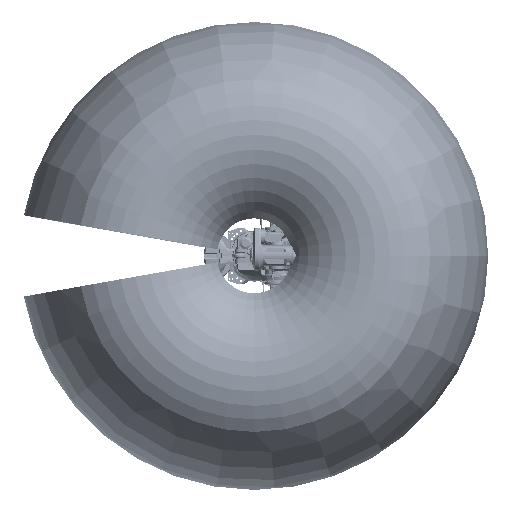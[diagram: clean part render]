
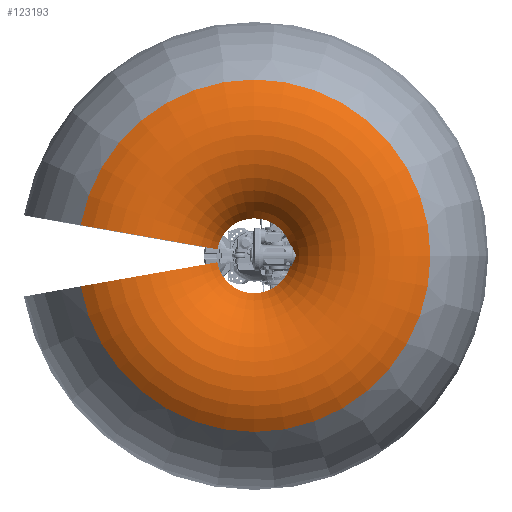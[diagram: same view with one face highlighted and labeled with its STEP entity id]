
A CAD part, top view. The second image highlights one B-rep face of the part: STEP entity #123193.
In plain terms, the highlighted toroidal (fillet/blend) face has major radius 1705.64 mm and minor radius 1295 mm.
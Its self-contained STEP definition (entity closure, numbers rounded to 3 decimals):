
#717 = VERTEX_POINT ( 'NONE', #183100 ) ;
#1055 = VERTEX_POINT ( 'NONE', #414908 ) ;
#4523 = CIRCLE ( 'NONE', #247422, 531.973 ) ;
#31187 = DIRECTION ( 'NONE',  ( -0.174, 0.985, 0. ) ) ;
#45859 = CARTESIAN_POINT ( 'NONE',  ( 0., 0., 2520.008 ) ) ;
#51327 = ORIENTED_EDGE ( 'NONE', *, *, #254730, .F. ) ;
#79674 = AXIS2_PLACEMENT_3D ( 'NONE', #117798, #215543, #148239 ) ;
#81705 = ORIENTED_EDGE ( 'NONE', *, *, #278812, .F. ) ;
#86138 = FACE_OUTER_BOUND ( 'NONE', #397639, .T. ) ;
#88703 = DIRECTION ( 'NONE',  ( -1., 0., 0. ) ) ;
#93594 = VERTEX_POINT ( 'NONE', #427778 ) ;
#111097 = AXIS2_PLACEMENT_3D ( 'NONE', #393950, #31187, #278574 ) ;
#111585 = ORIENTED_EDGE ( 'NONE', *, *, #191820, .F. ) ;
#116658 = DIRECTION ( 'NONE',  ( -1., 0., 0. ) ) ;
#117798 = CARTESIAN_POINT ( 'NONE',  ( 0., 0., 2993.192 ) ) ;
#123193 = ADVANCED_FACE ( 'NONE', ( #86138 ), #245153, .T. ) ;
#131868 = DIRECTION ( 'NONE',  ( 0.174, 0.985, 0. ) ) ;
#134010 = DIRECTION ( 'NONE',  ( 0., 0., 1. ) ) ;
#135393 = DIRECTION ( 'NONE',  ( 0., 0., -1. ) ) ;
#139616 = CARTESIAN_POINT ( 'NONE',  ( 0., 0., 2520.008 ) ) ;
#143231 = ORIENTED_EDGE ( 'NONE', *, *, #347758, .T. ) ;
#148239 = DIRECTION ( 'NONE',  ( -1., 0., 0. ) ) ;
#154658 = CIRCLE ( 'NONE', #168628, 1295. ) ;
#154901 = AXIS2_PLACEMENT_3D ( 'NONE', #214404, #183908, #116658 ) ;
#155801 = CARTESIAN_POINT ( 'NONE',  ( -523.892, -92.376, 2520.008 ) ) ;
#161328 = VERTEX_POINT ( 'NONE', #209867 ) ;
#168628 = AXIS2_PLACEMENT_3D ( 'NONE', #362077, #131868, #134010 ) ;
#183100 = CARTESIAN_POINT ( 'NONE',  ( 2502.924, 0., 2993.192 ) ) ;
#183546 = CIRCLE ( 'NONE', #79674, 2502.924 ) ;
#183908 = DIRECTION ( 'NONE',  ( 0., 0., -1. ) ) ;
#191820 = EDGE_CURVE ( 'NONE', #93594, #321534, #298399, .T. ) ;
#196622 = ORIENTED_EDGE ( 'NONE', *, *, #248883, .T. ) ;
#204617 = DIRECTION ( 'NONE',  ( -1., 0., 0. ) ) ;
#209867 = CARTESIAN_POINT ( 'NONE',  ( 531.973, 0., 2520.008 ) ) ;
#214404 = CARTESIAN_POINT ( 'NONE',  ( 0., 0., 1972.718 ) ) ;
#215543 = DIRECTION ( 'NONE',  ( 0., 0., -1. ) ) ;
#245153 = TOROIDAL_SURFACE ( 'NONE', #154901, 1705.642, 1295. ) ;
#247422 = AXIS2_PLACEMENT_3D ( 'NONE', #45859, #378176, #204617 ) ;
#248883 = EDGE_CURVE ( 'NONE', #267144, #161328, #4523, .T. ) ;
#254730 = EDGE_CURVE ( 'NONE', #717, #93594, #285178, .T. ) ;
#267144 = VERTEX_POINT ( 'NONE', #320991 ) ;
#278574 = DIRECTION ( 'NONE',  ( 0., 0., 1. ) ) ;
#278812 = EDGE_CURVE ( 'NONE', #1055, #717, #183546, .T. ) ;
#285178 = CIRCLE ( 'NONE', #327049, 2502.924 ) ;
#286106 = AXIS2_PLACEMENT_3D ( 'NONE', #139616, #135393, #341526 ) ;
#287655 = ORIENTED_EDGE ( 'NONE', *, *, #365016, .T. ) ;
#298399 = CIRCLE ( 'NONE', #111097, 1295. ) ;
#316809 = CARTESIAN_POINT ( 'NONE',  ( 0., 0., 2993.192 ) ) ;
#320991 = CARTESIAN_POINT ( 'NONE',  ( -523.892, 92.376, 2520.008 ) ) ;
#321534 = VERTEX_POINT ( 'NONE', #155801 ) ;
#327049 = AXIS2_PLACEMENT_3D ( 'NONE', #316809, #379822, #88703 ) ;
#341526 = DIRECTION ( 'NONE',  ( -1., 0., 0. ) ) ;
#347758 = EDGE_CURVE ( 'NONE', #161328, #321534, #416843, .T. ) ;
#362077 = CARTESIAN_POINT ( 'NONE',  ( -1679.729, 296.182, 1972.718 ) ) ;
#365016 = EDGE_CURVE ( 'NONE', #1055, #267144, #154658, .T. ) ;
#378176 = DIRECTION ( 'NONE',  ( 0., 0., -1. ) ) ;
#379822 = DIRECTION ( 'NONE',  ( 0., 0., -1. ) ) ;
#393950 = CARTESIAN_POINT ( 'NONE',  ( -1679.729, -296.182, 1972.718 ) ) ;
#397639 = EDGE_LOOP ( 'NONE', ( #196622, #143231, #111585, #51327, #81705, #287655 ) ) ;
#414908 = CARTESIAN_POINT ( 'NONE',  ( -2464.899, 434.628, 2993.192 ) ) ;
#416843 = CIRCLE ( 'NONE', #286106, 531.973 ) ;
#427778 = CARTESIAN_POINT ( 'NONE',  ( -2464.899, -434.628, 2993.192 ) ) ;
